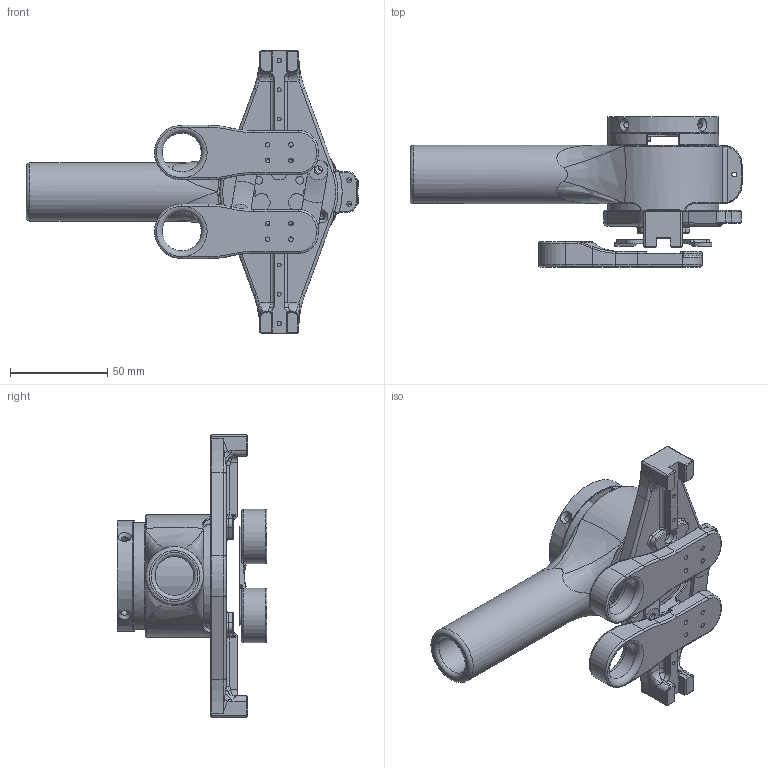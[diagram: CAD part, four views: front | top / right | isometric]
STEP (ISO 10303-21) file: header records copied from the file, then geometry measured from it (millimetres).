
FILE_DESCRIPTION (( 'STEP AP203' ), '1' );
FILE_NAME ('尨諒ん勤俋0820.STEP', '2024-08-26T13:00:32', ( '' ), ( '' ), 'SwSTEP 2.0', 'SolidWorks 2019', '' );
FILE_SCHEMA (( 'CONFIG_CONTROL_DESIGN' ));
Length unit declared in the file: millimetre
Products named in the file (10): M-JXB2-130099-B; 4310 熬厒萇儂Ver.B 3D20231203; M-JXB2-130101-C; 尨諒ん勤俋0820; M-JXB2-130115-A; M-JXB2-130102-C; M-JXB2-130104-D; M-JXB2-130103-C; M-JXB2-130107-B; 4310 熬厒萇儂Ver.B 3D
Assembly tree (10 placements, depth 3):
  尨諒ん勤俋0820
    4310 熬厒萇儂Ver.B 3D20231203
      4310 熬厒萇儂Ver.B 3D
    M-JXB2-130099-B
    M-JXB2-130101-C  x2
    M-JXB2-130102-C
    M-JXB2-130107-B
    M-JXB2-130103-C
    M-JXB2-130104-D
    M-JXB2-130115-A
Bounding box: 170.46 x 77 x 145 mm (x, y, z)
Volume: 239358.1 mm3; surface area: 90011.2 mm2
Topology: 9 solids, 9 shells, 1128 faces, 2759 edges, 1605 vertices
Faces by surface type: cylinder 384, plane 303, bspline 177, cone 173, torus 91
Full cylindrical faces by diameter (mm): 2 x4, 2.2 x2, 2.4 x8, 2.5 x21, 2.9 x4, 3 x2, 3.4 x16, 3.5 x1, 4 x7, 4.2 x4, 6 x1, 6.72 x2, 20 x3, 26 x1, 30 x1, 35 x1, 35.5 x1, 40 x1, 46 x1, 57 x3, 57.2 x1
Entity records: 46623 total; most frequent: CARTESIAN_POINT 21662, ORIENTED_EDGE 4940, DIRECTION 4809, EDGE_CURVE 2470, AXIS2_PLACEMENT_3D 1942, VERTEX_POINT 1528, EDGE_LOOP 1354, FACE_OUTER_BOUND 1206
